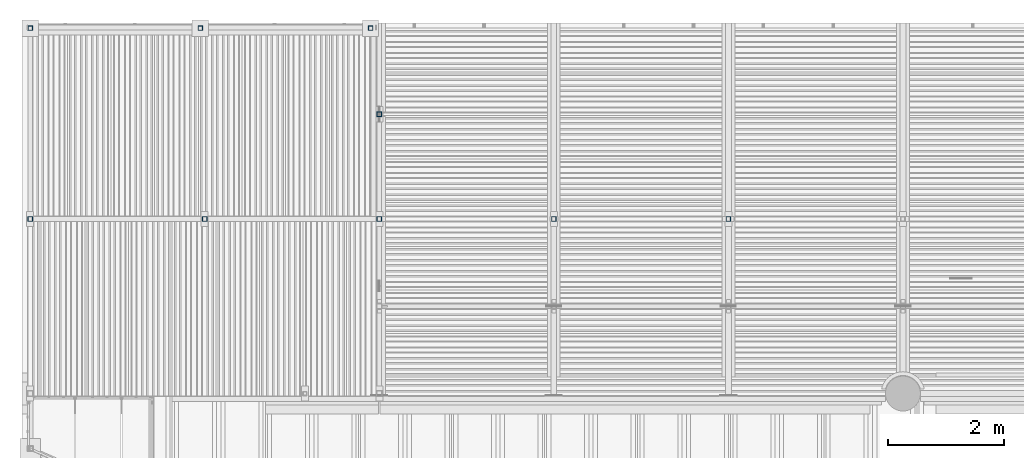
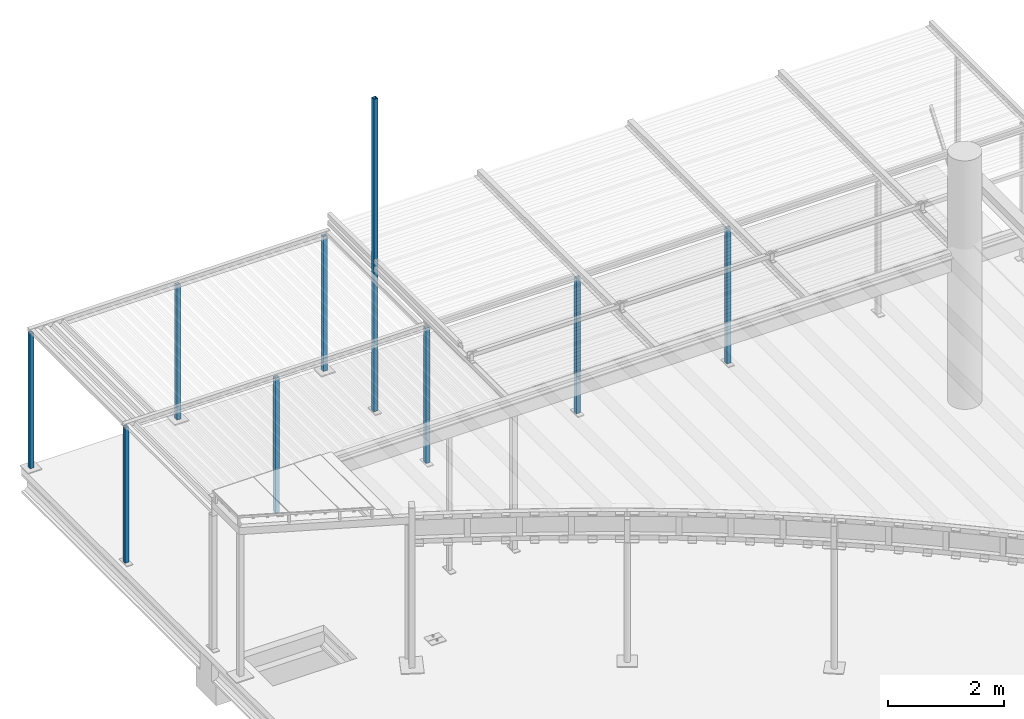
# One storey, part 4 of 98: 9 columns.
"""IFC2X3 building model written with IfcOpenShell, lengths in millimetres."""

from ifc_helpers import new_model, entity, si_unit, converted_unit, derived_unit, direction, frame, origin_with_axes, place, context, subcontext, project, spatial, faceted_brep, material, type_object, element, save


model = new_model("IFC2X3")

# Units and contexts
model_context = context("Model", 3, precision=0.01, world=frame((0.0, 4.29681676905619e-09, 0.0)), true_north=direction((4.01073788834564e-13, 1.0)))
plan_context = context("Plan", 3, precision=0.01, world=frame((0.0, 4.29681676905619e-09, 0.0)), true_north=direction((4.01073788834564e-13, 1.0)))
body_context = subcontext(model_context, "Body", "Model", "MODEL_VIEW")
ifc_project = project(units=[converted_unit("PLANEANGLEUNIT", "DEGREE", entity("IfcPositiveLengthMeasure", 0.0174532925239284), si_unit("PLANEANGLEUNIT", "RADIAN"), dimensions=[0, 0, 0, 0, 0, 0, 0]), si_unit("AREAUNIT", "SQUARE_METRE"), si_unit("LENGTHUNIT", "METRE", prefix="MILLI"), si_unit("MASSUNIT", "GRAM", prefix="KILO"), si_unit("POWERUNIT", "WATT"), si_unit("PRESSUREUNIT", "PASCAL"), si_unit("FORCEUNIT", "NEWTON", prefix="KILO"), si_unit("ELECTRICCURRENTUNIT", "AMPERE"), si_unit("THERMODYNAMICTEMPERATUREUNIT", "DEGREE_CELSIUS"), si_unit("TIMEUNIT", "SECOND"), si_unit("VOLUMEUNIT", "CUBIC_METRE"), derived_unit("LINEARVELOCITYUNIT", [(si_unit("LENGTHUNIT", "METRE"), 1), (si_unit("TIMEUNIT", "SECOND"), -1)]), derived_unit("VOLUMETRICFLOWRATEUNIT", [(si_unit("VOLUMEUNIT", "CUBIC_METRE"), 1), (si_unit("TIMEUNIT", "SECOND"), -1)]), derived_unit("THERMALTRANSMITTANCEUNIT", [(si_unit("POWERUNIT", "WATT"), 1), (si_unit("THERMODYNAMICTEMPERATUREUNIT", "KELVIN"), -1), (si_unit("AREAUNIT", "SQUARE_METRE"), -1)])], contexts=[model_context, plan_context])

# Site, building, storey
site_placement = place(None, frame((0.0, -4.29681676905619e-09, 0.0), z_axis=(0.0, 0.0, 1.0), x_axis=(1.0, 0.0, 0.0)))
site = spatial("IfcSite", under=ifc_project, at=site_placement, Name="Gardermoen", CompositionType="ELEMENT")
building_placement = place(site_placement, frame((0.0, 4.29681676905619e-09, 0.0), z_axis=(0.0, 0.0, 1.0), x_axis=(1.0, 0.0, 0.0)))
building = spatial("IfcBuilding", under=site, at=building_placement, Name="TS", CompositionType="ELEMENT")
storey_placement = place(building_placement, origin_with_axes())
storey = spatial("IfcBuildingStorey", under=building, at=storey_placement, Name="D", CompositionType="ELEMENT", Elevation=0.0)

# Columns
ifc_material = material(Name="STEEL/S355")
column_type_1 = type_object("IfcColumnType", Name="RHS80*5", PredefinedType="NOTDEFINED")
column_placement = place(storey_placement, frame((520000.0, 419300.0, 203930.0), z_axis=(1.0, 0.0, 0.0), x_axis=(0.0, 0.0, 1.0)))
element("IfcColumn", 1, at=column_placement, inside=storey, type_object=column_type_1, material=ifc_material, Name="STÅLSØYLE", ObjectType="RHS80*5", context=body_context, shape_type="Brep", body=[
    faceted_brep([(15.0, 35.0, -35.0), (15.0, -35.0, -35.0), (6604.99933993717, -35.0, -35.0), (6604.99933993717, 35.0, -35.0), (15.0, -35.0, 35.0), (6604.99933993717, -35.0, 35.0), (15.0, 35.0, 35.0), (6604.99933993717, 35.0, 35.0), (15.0, 40.0, -40.0), (15.0, 40.0, 40.0), (6604.99933993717, 40.0, 40.0), (6604.99933993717, 40.0, -40.0), (15.0, -40.0, 40.0), (6604.99933993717, -40.0, 40.0), (15.0, -40.0, -40.0), (6604.99933993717, -40.0, -40.0)], [[[0, 1, 2, 3]], [[1, 4, 5, 2]], [[4, 6, 7, 5]], [[6, 0, 3, 7]], [[8, 9, 10, 11]], [[9, 12, 13, 10]], [[12, 14, 15, 13]], [[14, 8, 11, 15]], [[13, 15, 11, 10], [5, 7, 3, 2]], [[14, 12, 9, 8], [6, 4, 1, 0]]]),
])
for number, where, z_axis, x_axis in (
    (2, (514000.004834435, 417499.941078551, 203970.0), (-0.999999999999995, -9.99999902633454e-08, 6.46199937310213e-13), (0.0, 6.46200000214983e-06, 0.999999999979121)),
    (3, (517000.004834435, 417499.941078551, 203970.0), (-0.999999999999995, -9.99999902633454e-08, 6.46199937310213e-13), (0.0, 6.46200000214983e-06, 0.999999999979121)),
    (4, (520000.004834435, 417499.941078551, 203970.0), (-0.999999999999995, -9.99999902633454e-08, 6.46199937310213e-13), (0.0, 6.46200000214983e-06, 0.999999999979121)),
    (5, (523000.004834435, 417499.941078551, 203970.0), (-0.999999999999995, -9.99999902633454e-08, 6.46199937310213e-13), (0.0, 6.46200000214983e-06, 0.999999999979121)),
    (6, (526000.004834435, 417499.941078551, 203970.0), (-0.999999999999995, -9.99999902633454e-08, 6.46199937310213e-13), (0.0, 6.46200000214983e-06, 0.999999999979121)),
):
    element("IfcColumn", number, at=place(storey_placement, frame(where, z_axis=z_axis, x_axis=x_axis)), inside=storey, type_object=column_type_1, material=ifc_material, Name="STÅLSØYLE", ObjectType="RHS80*5", context=body_context, shape_type="Brep", body=[
        faceted_brep([(-25.0000153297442, 35.0000000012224, -35.0), (-24.9999846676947, -35.0000000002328, -35.0), (2827.00000003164, -35.0000000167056, -35.0), (2827.00000003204, 34.9999999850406, -35.0), (-24.9999846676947, -35.0000000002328, 35.0), (2827.00000003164, -35.0000000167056, 35.0), (-25.0000153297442, 35.0000000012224, 35.0), (2827.00000003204, 34.9999999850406, 35.0), (-25.0000175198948, 40.0000000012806, -40.0), (-25.0000175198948, 40.0000000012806, 40.0), (2827.00000003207, 39.999999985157, 40.0), (2827.00000003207, 39.999999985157, -40.0), (-24.9999824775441, -40.0000000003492, 40.0), (2827.00000003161, -40.0000000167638, 40.0), (-24.9999824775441, -40.0000000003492, -40.0), (2827.00000003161, -40.0000000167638, -40.0)], [[[0, 1, 2, 3]], [[1, 4, 5, 2]], [[4, 6, 7, 5]], [[6, 0, 3, 7]], [[8, 9, 10, 11]], [[9, 12, 13, 10]], [[12, 14, 15, 13]], [[14, 8, 11, 15]], [[13, 15, 11, 10], [5, 7, 3, 2]], [[14, 12, 9, 8], [6, 4, 1, 0]]]),
    ])
column_type_2 = type_object("IfcColumnType", Name="RHS80*6", PredefinedType="NOTDEFINED")
for number, where, z_axis, x_axis in (
    (7, (516925.0, 420780.00496895, 203930.0), (-0.999999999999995, -9.99999902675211e-08, 0.0), (0.0, 0.0, 1.0)),
    (8, (519850.0, 420780.00496895, 203930.0), (-0.999999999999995, -9.99999902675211e-08, 0.0), (0.0, 0.0, 1.0)),
    (9, (514000.0, 420780.00496895, 203930.0), (-0.999999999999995, -9.99999902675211e-08, 0.0), (0.0, 0.0, 1.0)),
):
    element("IfcColumn", number, at=place(storey_placement, frame(where, z_axis=z_axis, x_axis=x_axis)), inside=storey, type_object=column_type_2, material=ifc_material, Name="STÅLSØYLE", ObjectType="RHS80*6", context=body_context, shape_type="Brep", body=[
        faceted_brep([(20.0000031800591, 34.0, -33.9999999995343), (20.0000031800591, -34.0, -33.9999999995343), (2859.999718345, -34.0, -34.0), (2859.999718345, 34.0, -34.0), (20.0000031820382, -34.0, 34.0000000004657), (2859.999718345, -34.0, 34.0), (20.0000031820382, 34.0, 34.0000000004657), (2859.999718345, 34.0, 34.0), (20.0000031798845, 40.0, -39.9999999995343), (20.0000031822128, 40.0, 40.0000000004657), (2859.999718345, 40.0, 40.0), (2859.999718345, 40.0, -40.0), (20.0000031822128, -40.0, 40.0000000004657), (2859.999718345, -40.0, 40.0), (20.0000031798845, -40.0, -39.9999999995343), (2859.999718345, -40.0, -40.0)], [[[0, 1, 2, 3]], [[1, 4, 5, 2]], [[4, 6, 7, 5]], [[6, 0, 3, 7]], [[8, 9, 10, 11]], [[9, 12, 13, 10]], [[12, 14, 15, 13]], [[14, 8, 11, 15]], [[13, 15, 11, 10], [5, 7, 3, 2]], [[14, 12, 9, 8], [6, 4, 1, 0]]]),
    ])

save(model, "model.ifc")
